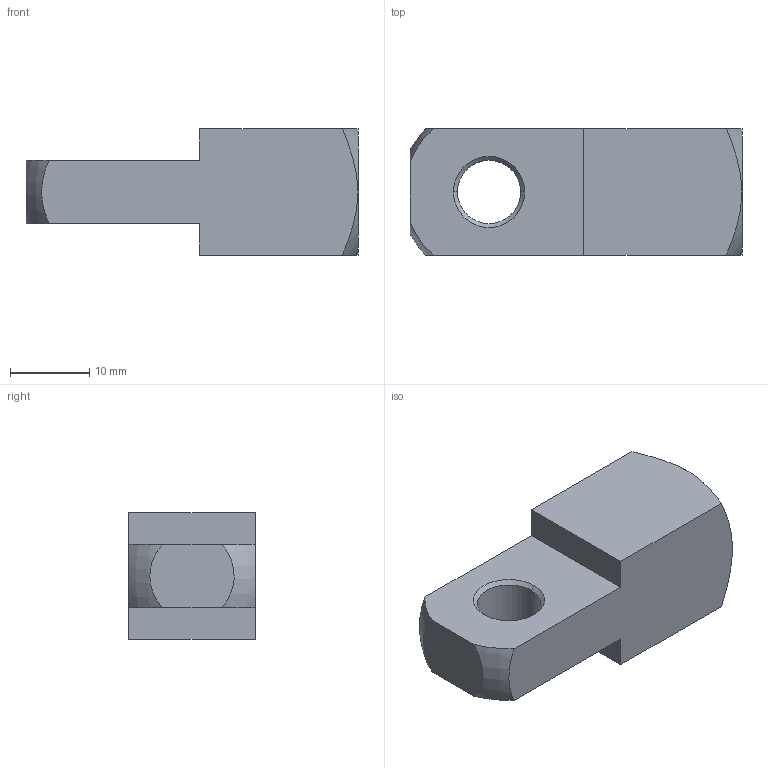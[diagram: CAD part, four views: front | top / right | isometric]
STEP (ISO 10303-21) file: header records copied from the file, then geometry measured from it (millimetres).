
FILE_DESCRIPTION (( 'STEP AP203' ), '1' );
FILE_NAME ('65653.W1009.step', '2014-01-22T12:16:42', ( 'User' ), ( '' ), 'SwSTEP 2.0', 'SolidWorks 2009', '' );
FILE_SCHEMA (( 'CONFIG_CONTROL_DESIGN' ));
Length unit declared in the file: millimetre
Products named in the file (1): 65653.W1009
Bounding box: 42 x 16 x 16 mm (x, y, z)
Volume: 6551.5 mm3; surface area: 3290.4 mm2
Topology: 1 solids, 1 shells, 31 faces, 74 edges, 45 vertices
Faces by surface type: cone 12, plane 11, cylinder 6, torus 2
Entity records: 1079 total; most frequent: CARTESIAN_POINT 289, DIRECTION 152, ORIENTED_EDGE 144, EDGE_CURVE 72, AXIS2_PLACEMENT_3D 60, VERTEX_POINT 45, EDGE_LOOP 35, LINE 32
